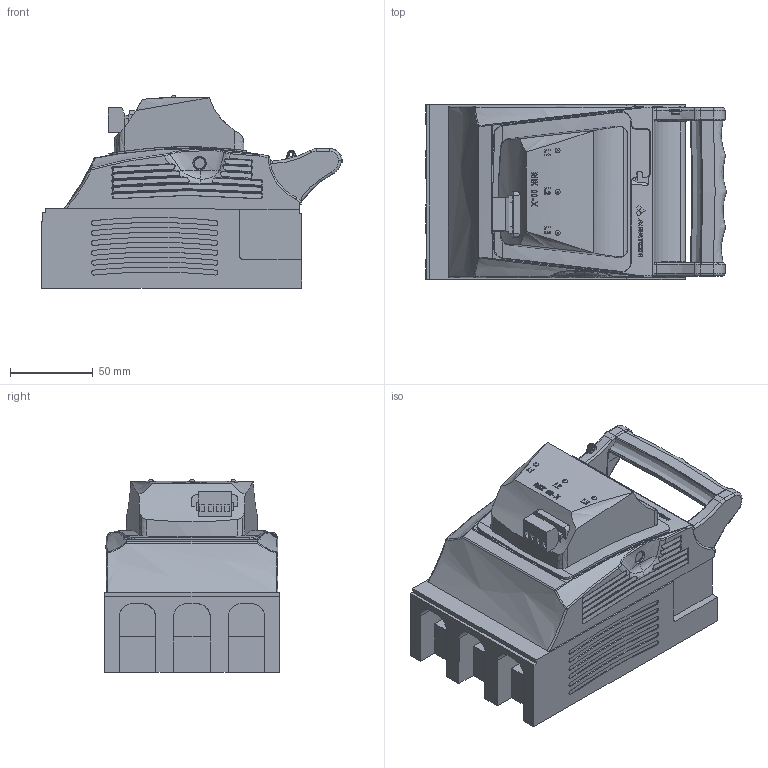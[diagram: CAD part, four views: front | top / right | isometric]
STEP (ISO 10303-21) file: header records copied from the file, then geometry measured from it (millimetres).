
FILE_DESCRIPTION(/* description */ (''),/* implementation_level */ '2;1');
FILE_NAME(/* name */ 'RBK 00 pro-X - 63-823304-021.stp',/* time_stamp */ '2019-03-07T14:59:03+01:00',/* author */ (''),/* organization */ (''),/* preprocessor_version */ 'ST-DEVELOPER v16',/* originating_system */ 'SIEMENS PLM Software NX 10.0',/* authorisation */ '');
FILE_SCHEMA (('AUTOMOTIVE_DESIGN { 1 0 10303 214 3 1 1 1 }'));
Products named in the file (1): 710_1570FDB6zv1w
Bounding box: 182.22 x 106 x 116.65 mm (x, y, z)
Volume: 1274776.8 mm3; surface area: 105017.2 mm2
Topology: 1 solids, 4 shells, 1501 faces, 4186 edges, 2742 vertices
Faces by surface type: plane 889, bspline 234, cylinder 127, cone 96, extrusion 94, torus 37, sphere 18, revolution 6
Full cylindrical faces by diameter (mm): 2.2 x1, 5.2 x4, 6.6 x1
Entity records: 71665 total; most frequent: CARTESIAN_POINT 30218, ORIENTED_EDGE 8280, DIRECTION 7417, EDGE_CURVE 4140, AXIS2_PLACEMENT_3D 2894, VERTEX_POINT 2734, VECTOR 1623, EDGE_LOOP 1594
